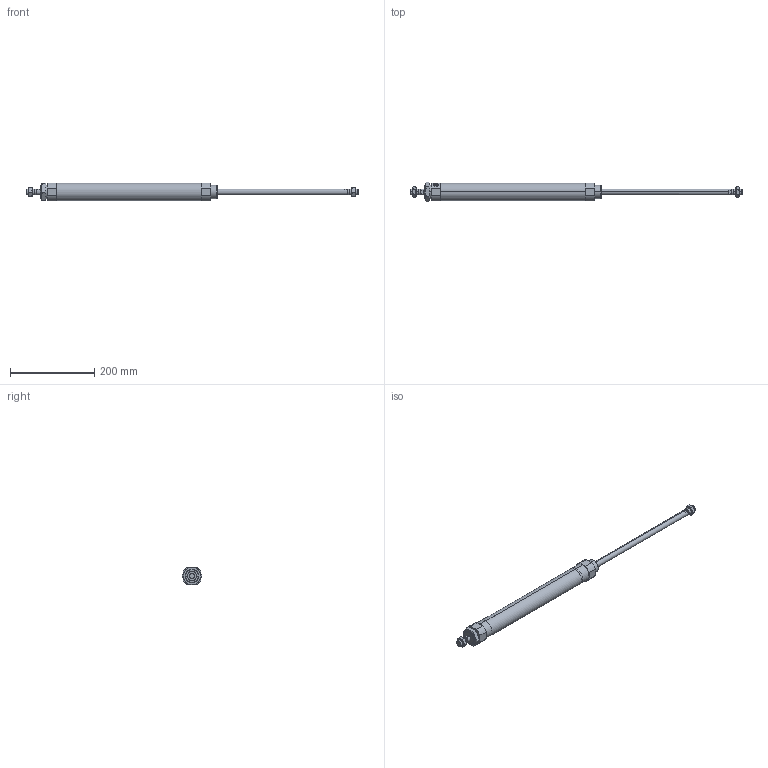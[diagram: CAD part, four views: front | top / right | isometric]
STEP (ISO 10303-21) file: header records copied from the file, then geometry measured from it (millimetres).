
FILE_DESCRIPTION (( 'STEP AP203' ), '1' );
FILE_NAME ('CSM2B40-300-P.STEP', '2020-07-20T16:52:44', ( '' ), ( '' ), 'SwSTEP 2.0', 'SolidWorks 2019', '' );
FILE_SCHEMA (( 'CONFIG_CONTROL_DESIGN' ));
Length unit declared in the file: millimetre
Products named in the file (1): CSM2B40-300-P
Bounding box: 788 x 47.34 x 42.5 mm (x, y, z)
Volume: 306836.3 mm3; surface area: 148579.9 mm2
Topology: 5 solids, 5 shells, 155 faces, 362 edges, 227 vertices
Faces by surface type: plane 63, cylinder 48, cone 44
Entity records: 5727 total; most frequent: CARTESIAN_POINT 2107, DIRECTION 750, ORIENTED_EDGE 720, EDGE_CURVE 360, AXIS2_PLACEMENT_3D 296, VERTEX_POINT 227, EDGE_LOOP 179, VECTOR 158
